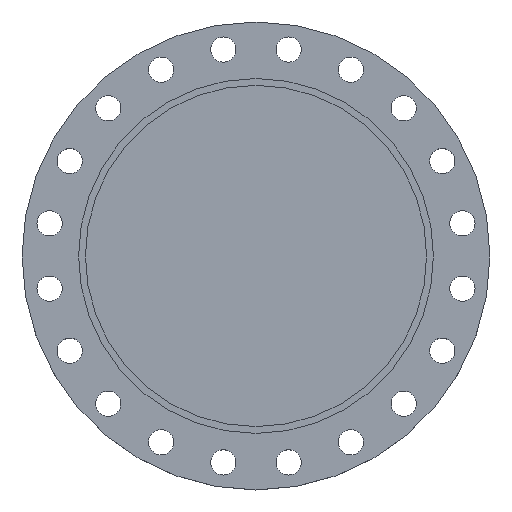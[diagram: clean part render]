
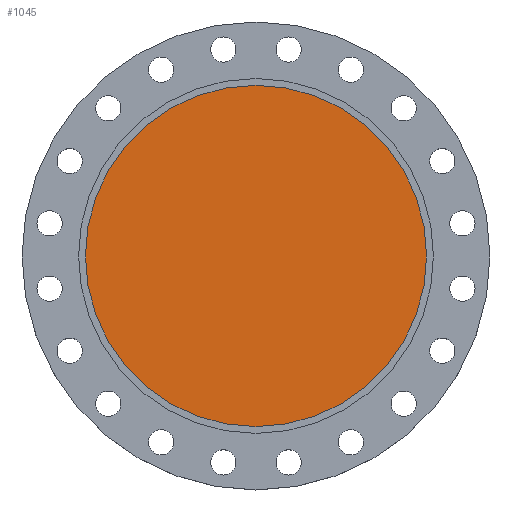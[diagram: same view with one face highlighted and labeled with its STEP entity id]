
A CAD part, top view. The second image highlights one B-rep face of the part: STEP entity #1045.
In plain terms, the highlighted planar face has unit normal (0, 0, 1).
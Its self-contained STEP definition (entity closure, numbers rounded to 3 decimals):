
#83 = AXIS2_PLACEMENT_3D ( 'NONE', #580, #578, #577 ) ;
#414 = DIRECTION ( 'NONE',  ( -1., 0., 0. ) ) ;
#415 = DIRECTION ( 'NONE',  ( 0., 0., -1. ) ) ;
#417 = CARTESIAN_POINT ( 'NONE',  ( 0., 0., -5.5 ) ) ;
#453 = CARTESIAN_POINT ( 'NONE',  ( -324.5, 0., -5.5 ) ) ;
#472 = AXIS2_PLACEMENT_3D ( 'NONE', #701, #694, #696 ) ;
#478 = CARTESIAN_POINT ( 'NONE',  ( 324.5, 0., -5.5 ) ) ;
#507 = CIRCLE ( 'NONE', #472, 324.5 ) ;
#577 = DIRECTION ( 'NONE',  ( 1., 0., 0. ) ) ;
#578 = DIRECTION ( 'NONE',  ( 0., 0., 1. ) ) ;
#580 = CARTESIAN_POINT ( 'NONE',  ( 324.5, 0., -5.5 ) ) ;
#582 = PLANE ( 'NONE',  #83 ) ;
#584 = FACE_OUTER_BOUND ( 'NONE', #1187, .T. ) ;
#694 = DIRECTION ( 'NONE',  ( 0., 0., -1. ) ) ;
#696 = DIRECTION ( 'NONE',  ( -1., 0., 0. ) ) ;
#701 = CARTESIAN_POINT ( 'NONE',  ( 0., 0., -5.5 ) ) ;
#842 = EDGE_CURVE ( 'NONE', #1203, #1287, #507, .T. ) ;
#1045 = ADVANCED_FACE ( 'NONE', ( #584 ), #582, .T. ) ;
#1187 = EDGE_LOOP ( 'NONE', ( #1450, #1449 ) ) ;
#1203 = VERTEX_POINT ( 'NONE', #478 ) ;
#1287 = VERTEX_POINT ( 'NONE', #453 ) ;
#1449 = ORIENTED_EDGE ( 'NONE', *, *, #842, .F. ) ;
#1450 = ORIENTED_EDGE ( 'NONE', *, *, #1538, .F. ) ;
#1515 = CIRCLE ( 'NONE', #1517, 324.5 ) ;
#1517 = AXIS2_PLACEMENT_3D ( 'NONE', #417, #415, #414 ) ;
#1538 = EDGE_CURVE ( 'NONE', #1287, #1203, #1515, .T. ) ;
